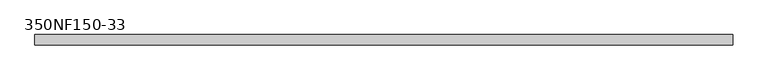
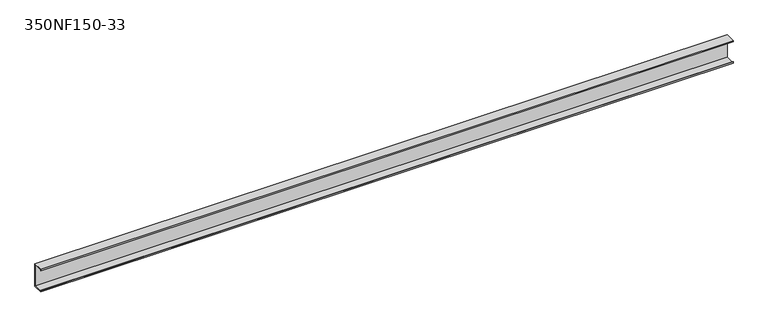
"""IFC4 building model written with IfcOpenShell, lengths in millimetres: beam geometry, BIMSF-SSMA-S : 350NF150-33."""

from ifc_helpers import new_model, si_unit, frame, origin, place, context, project, spatial, polyline, outline, extrude, source, transform, mapped, element, save


def beam_350nf150_33_c7d518e1(model_context):
    return source(origin(), model_context, "Body", "SweptSolid", [
        extrude(outline(polyline([(19.05, 44.45), (19.05, -44.45), (-19.05, -44.45), (-19.05, -39.6748), (-18.1676842, -39.6748), (-18.1676842, -43.5676842), (18.1676842, -43.5676842), (18.1676842, 43.5676842), (-18.1676842, 43.5676842), (-18.1676842, 39.6748), (-19.05, 39.6748), (-19.05, 44.45), (19.05, 44.45)])), frame((-1303.3375, 0.0, 0.0), z_axis=(1.0, 0.0, 0.0), x_axis=(0.0, 1.0, 0.0)), (0.0, 0.0, 1.0), 2606.675),
    ])


if __name__ == "__main__":
    model = new_model("IFC4")
    model_context = context("Model", 3, world=origin())
    ifc_project = project(units=[si_unit("LENGTHUNIT", "METRE", prefix="MILLI")], contexts=[model_context])
    site = spatial("IfcSite", under=ifc_project)
    building = spatial("IfcBuilding", under=site)
    placement = place(None, origin())
    beam_350nf150_33_shape = beam_350nf150_33_c7d518e1(model_context)
    element("IfcBeam", 1, ObjectType="BIMSF-SSMA-S : 350NF150-33", at=placement, inside=building, context=model_context, shape_type="MappedRepresentation", body=[
        mapped(beam_350nf150_33_shape, transform((0.0, 0.0, 0.0), x_axis=(1.0, 0.0, 0.0), y_axis=(0.0, 1.0, 0.0), z_axis=(0.0, 0.0, 1.0))),
    ])
    save(model, "model.ifc")
